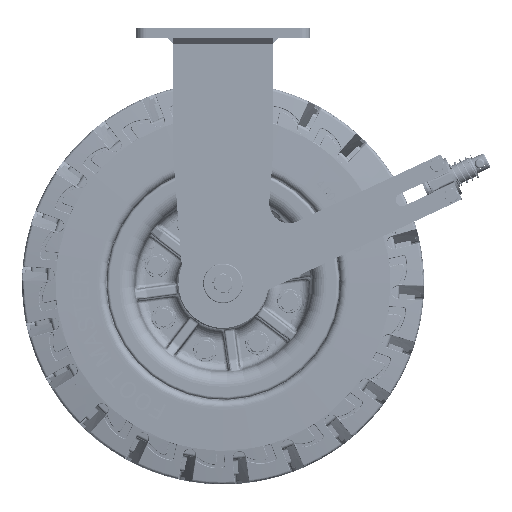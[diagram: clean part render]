
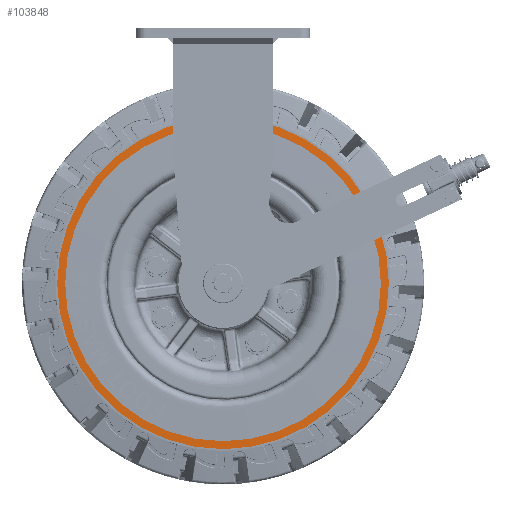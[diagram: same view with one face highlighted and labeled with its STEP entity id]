
A CAD part, front view. The second image highlights one B-rep face of the part: STEP entity #103848.
In plain terms, the highlighted conical face has half-angle 88.393 degrees and reference radius 148 mm.
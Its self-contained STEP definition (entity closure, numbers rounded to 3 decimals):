
#3821=CONICAL_SURFACE('',#110959,148.,1.543);
#6440=LINE('',#248733,#10293);
#10293=VECTOR('',#123803,148.);
#18232=FACE_OUTER_BOUND('',#24406,.T.);
#24406=EDGE_LOOP('',(#83361,#83362,#83363,#83364));
#37073=CIRCLE('',#110960,166.999);
#37074=CIRCLE('',#110961,158.999);
#44118=VERTEX_POINT('',#248730);
#44119=VERTEX_POINT('',#248732);
#57738=EDGE_CURVE('',#44118,#44118,#37073,.T.);
#57739=EDGE_CURVE('',#44118,#44119,#6440,.T.);
#57740=EDGE_CURVE('',#44119,#44119,#37074,.T.);
#83361=ORIENTED_EDGE('',*,*,#57738,.T.);
#83362=ORIENTED_EDGE('',*,*,#57739,.T.);
#83363=ORIENTED_EDGE('',*,*,#57740,.T.);
#83364=ORIENTED_EDGE('',*,*,#57739,.F.);
#103848=ADVANCED_FACE('',(#18232),#3821,.T.);
#110959=AXIS2_PLACEMENT_3D('',#248729,#123799,#123800);
#110960=AXIS2_PLACEMENT_3D('',#248731,#123801,#123802);
#110961=AXIS2_PLACEMENT_3D('',#248734,#123804,#123805);
#123799=DIRECTION('center_axis',(0.,1.,0.));
#123800=DIRECTION('ref_axis',(-0.866,0.,
-0.5));
#123801=DIRECTION('center_axis',(0.,-1.,0.));
#123802=DIRECTION('ref_axis',(-0.866,0.,
-0.5));
#123803=DIRECTION('',(-0.866,-0.028,-0.5));
#123804=DIRECTION('center_axis',(0.,1.,0.));
#123805=DIRECTION('ref_axis',(-0.866,0.,
-0.5));
#248729=CARTESIAN_POINT('Origin',(0.,-55.925,
-247.5));
#248730=CARTESIAN_POINT('',(144.625,-55.392,-164.001));
#248731=CARTESIAN_POINT('Origin',(0.,-55.392,
-247.5));
#248732=CARTESIAN_POINT('',(137.697,-55.616,-168.001));
#248733=CARTESIAN_POINT('',(128.172,-55.925,-173.5));
#248734=CARTESIAN_POINT('Origin',(0.,-55.616,
-247.5));
